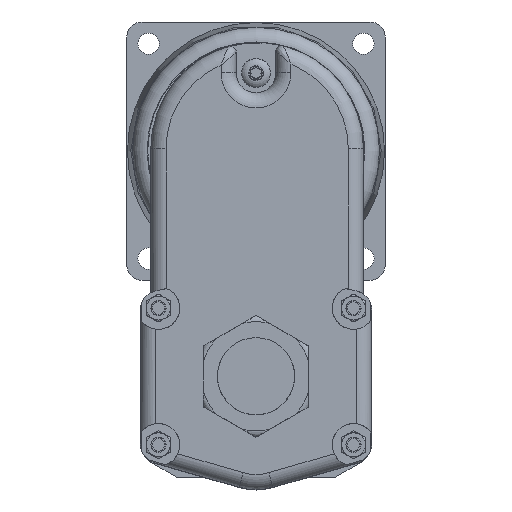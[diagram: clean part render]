
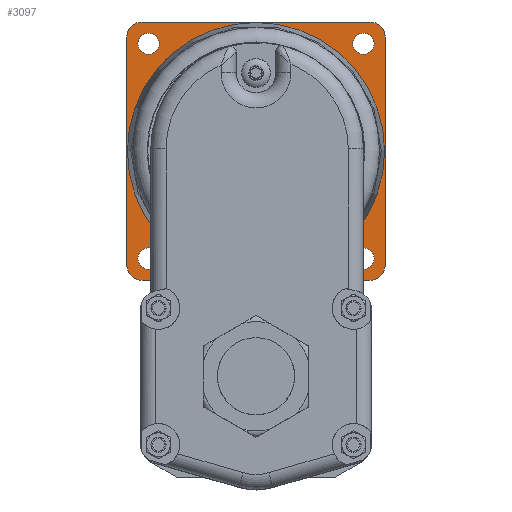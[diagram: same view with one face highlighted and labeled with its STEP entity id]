
A CAD part, top view. The second image highlights one B-rep face of the part: STEP entity #3097.
In plain terms, the highlighted planar face has unit normal (0, 0, 1).
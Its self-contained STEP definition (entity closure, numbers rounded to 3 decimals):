
#189 = VERTEX_POINT ( 'NONE', #4096 ) ;
#191 = VERTEX_POINT ( 'NONE', #4098 ) ;
#193 = VERTEX_POINT ( 'NONE', #4100 ) ;
#196 = VERTEX_POINT ( 'NONE', #4103 ) ;
#200 = VERTEX_POINT ( 'NONE', #4107 ) ;
#202 = VERTEX_POINT ( 'NONE', #4109 ) ;
#205 = VERTEX_POINT ( 'NONE', #4112 ) ;
#206 = VERTEX_POINT ( 'NONE', #4113 ) ;
#1895 = EDGE_CURVE ( 'NONE', #11479, #11479, #8239, .T. ) ;
#1946 = EDGE_CURVE ( 'NONE', #206, #205, #8324, .T. ) ;
#1950 = EDGE_CURVE ( 'NONE', #11491, #11491, #8332, .T. ) ;
#1952 = EDGE_CURVE ( 'NONE', #202, #200, #8326, .T. ) ;
#1955 = EDGE_CURVE ( 'NONE', #11499, #11499, #8338, .T. ) ;
#1956 = EDGE_CURVE ( 'NONE', #205, #202, #8340, .T. ) ;
#1957 = EDGE_CURVE ( 'NONE', #200, #196, #8342, .T. ) ;
#1958 = EDGE_CURVE ( 'NONE', #196, #193, #8331, .T. ) ;
#1959 = EDGE_CURVE ( 'NONE', #193, #191, #8344, .T. ) ;
#1960 = EDGE_CURVE ( 'NONE', #191, #189, #8330, .T. ) ;
#1961 = EDGE_CURVE ( 'NONE', #189, #206, #8347, .T. ) ;
#1963 = EDGE_CURVE ( 'NONE', #11501, #11501, #8349, .T. ) ;
#1965 = EDGE_CURVE ( 'NONE', #11503, #11503, #8352, .T. ) ;
#2681 = ORIENTED_EDGE ( 'NONE', *, *, #1950, .F. ) ;
#2682 = ORIENTED_EDGE ( 'NONE', *, *, #1955, .F. ) ;
#2683 = ORIENTED_EDGE ( 'NONE', *, *, #1946, .T. ) ;
#2684 = ORIENTED_EDGE ( 'NONE', *, *, #1956, .T. ) ;
#2685 = ORIENTED_EDGE ( 'NONE', *, *, #1952, .T. ) ;
#2686 = ORIENTED_EDGE ( 'NONE', *, *, #1957, .T. ) ;
#2687 = ORIENTED_EDGE ( 'NONE', *, *, #1958, .T. ) ;
#2688 = ORIENTED_EDGE ( 'NONE', *, *, #1959, .T. ) ;
#2689 = ORIENTED_EDGE ( 'NONE', *, *, #1960, .T. ) ;
#2690 = ORIENTED_EDGE ( 'NONE', *, *, #1961, .T. ) ;
#2691 = ORIENTED_EDGE ( 'NONE', *, *, #1963, .F. ) ;
#2692 = ORIENTED_EDGE ( 'NONE', *, *, #1965, .F. ) ;
#2693 = ORIENTED_EDGE ( 'NONE', *, *, #1895, .T. ) ;
#3097 = ADVANCED_FACE ( 'NONE', ( #8735, #8738, #8742, #8744, #8739, #8737 ), #11002, .F. ) ;
#4096 = CARTESIAN_POINT ( 'NONE',  ( -37.5, 116.9, -11.3 ) ) ;
#4098 = CARTESIAN_POINT ( 'NONE',  ( 37.5, 116.9, -11.3 ) ) ;
#4100 = CARTESIAN_POINT ( 'NONE',  ( 42.5, 111.9, -11.3 ) ) ;
#4103 = CARTESIAN_POINT ( 'NONE',  ( 42.5, 36.9, -11.3 ) ) ;
#4107 = CARTESIAN_POINT ( 'NONE',  ( 37.5, 31.9, -11.3 ) ) ;
#4109 = CARTESIAN_POINT ( 'NONE',  ( -37.5, 31.9, -11.3 ) ) ;
#4112 = CARTESIAN_POINT ( 'NONE',  ( -42.5, 36.9, -11.3 ) ) ;
#4113 = CARTESIAN_POINT ( 'NONE',  ( -42.5, 111.9, -11.3 ) ) ;
#7739 = AXIS2_PLACEMENT_3D ( 'NONE', #9929, #9937, #9938 ) ;
#7760 = AXIS2_PLACEMENT_3D ( 'NONE', #10107, #10108, #10109 ) ;
#7763 = AXIS2_PLACEMENT_3D ( 'NONE', #10068, #10069, #10070 ) ;
#7767 = AXIS2_PLACEMENT_3D ( 'NONE', #10082, #10089, #10090 ) ;
#7769 = AXIS2_PLACEMENT_3D ( 'NONE', #10060, #10083, #10084 ) ;
#7770 = AXIS2_PLACEMENT_3D ( 'NONE', #10079, #10086, #10087 ) ;
#7771 = AXIS2_PLACEMENT_3D ( 'NONE', #10085, #10094, #10095 ) ;
#7772 = AXIS2_PLACEMENT_3D ( 'NONE', #10088, #10099, #10100 ) ;
#7773 = AXIS2_PLACEMENT_3D ( 'NONE', #10093, #10103, #10104 ) ;
#7911 = AXIS2_PLACEMENT_3D ( 'NONE', #11001, #11004, #11005 ) ;
#8239 = CIRCLE ( 'NONE', #7739, 42.331 ) ;
#8324 = LINE ( 'NONE', #10057, #8325 ) ;
#8325 = VECTOR ( 'NONE', #10058, 1000. ) ;
#8326 = LINE ( 'NONE', #10074, #8333 ) ;
#8330 = LINE ( 'NONE', #10096, #8341 ) ;
#8331 = LINE ( 'NONE', #10091, #8339 ) ;
#8332 = CIRCLE ( 'NONE', #7763, 3.5 ) ;
#8333 = VECTOR ( 'NONE', #10075, 1000. ) ;
#8338 = CIRCLE ( 'NONE', #7769, 3.5 ) ;
#8339 = VECTOR ( 'NONE', #10092, 1000. ) ;
#8340 = CIRCLE ( 'NONE', #7770, 5. ) ;
#8341 = VECTOR ( 'NONE', #10097, 1000. ) ;
#8342 = CIRCLE ( 'NONE', #7767, 5. ) ;
#8344 = CIRCLE ( 'NONE', #7771, 5. ) ;
#8347 = CIRCLE ( 'NONE', #7772, 5. ) ;
#8349 = CIRCLE ( 'NONE', #7773, 3.5 ) ;
#8352 = CIRCLE ( 'NONE', #7760, 3.5 ) ;
#8735 = FACE_BOUND ( 'NONE', #9213, .T. ) ;
#8737 = FACE_BOUND ( 'NONE', #9192, .T. ) ;
#8738 = FACE_BOUND ( 'NONE', #9201, .T. ) ;
#8739 = FACE_BOUND ( 'NONE', #9193, .T. ) ;
#8742 = FACE_OUTER_BOUND ( 'NONE', #9195, .T. ) ;
#8744 = FACE_BOUND ( 'NONE', #9194, .T. ) ;
#9192 = EDGE_LOOP ( 'NONE', ( #2693 ) ) ;
#9193 = EDGE_LOOP ( 'NONE', ( #2692 ) ) ;
#9194 = EDGE_LOOP ( 'NONE', ( #2691 ) ) ;
#9195 = EDGE_LOOP ( 'NONE', ( #2683, #2684, #2685, #2686, #2687, #2688, #2689, #2690 ) ) ;
#9201 = EDGE_LOOP ( 'NONE', ( #2682 ) ) ;
#9213 = EDGE_LOOP ( 'NONE', ( #2681 ) ) ;
#9929 = CARTESIAN_POINT ( 'NONE',  ( 0., 74.4, -11.3 ) ) ;
#9937 = DIRECTION ( 'NONE',  ( 0., 0., -1. ) ) ;
#9938 = DIRECTION ( 'NONE',  ( -1., 0., 0. ) ) ;
#10057 = CARTESIAN_POINT ( 'NONE',  ( -42.5, 116.9, -11.3 ) ) ;
#10058 = DIRECTION ( 'NONE',  ( 0., -1., 0. ) ) ;
#10060 = CARTESIAN_POINT ( 'NONE',  ( -35.355, 39.045, -11.3 ) ) ;
#10068 = CARTESIAN_POINT ( 'NONE',  ( 35.355, 109.755, -11.3 ) ) ;
#10069 = DIRECTION ( 'NONE',  ( 0., 0., 1. ) ) ;
#10070 = DIRECTION ( 'NONE',  ( 1., 0., 0. ) ) ;
#10074 = CARTESIAN_POINT ( 'NONE',  ( -42.5, 31.9, -11.3 ) ) ;
#10075 = DIRECTION ( 'NONE',  ( 1., 0., 0. ) ) ;
#10079 = CARTESIAN_POINT ( 'NONE',  ( -37.5, 36.9, -11.3 ) ) ;
#10082 = CARTESIAN_POINT ( 'NONE',  ( 37.5, 36.9, -11.3 ) ) ;
#10083 = DIRECTION ( 'NONE',  ( 0., 0., 1. ) ) ;
#10084 = DIRECTION ( 'NONE',  ( 1., 0., 0. ) ) ;
#10085 = CARTESIAN_POINT ( 'NONE',  ( 37.5, 111.9, -11.3 ) ) ;
#10086 = DIRECTION ( 'NONE',  ( 0., 0., 1. ) ) ;
#10087 = DIRECTION ( 'NONE',  ( -1., 0., 0. ) ) ;
#10088 = CARTESIAN_POINT ( 'NONE',  ( -37.5, 111.9, -11.3 ) ) ;
#10089 = DIRECTION ( 'NONE',  ( 0., 0., 1. ) ) ;
#10090 = DIRECTION ( 'NONE',  ( -1., 0., 0. ) ) ;
#10091 = CARTESIAN_POINT ( 'NONE',  ( 42.5, 116.9, -11.3 ) ) ;
#10092 = DIRECTION ( 'NONE',  ( 0., 1., 0. ) ) ;
#10093 = CARTESIAN_POINT ( 'NONE',  ( 35.355, 39.045, -11.3 ) ) ;
#10094 = DIRECTION ( 'NONE',  ( 0., 0., 1. ) ) ;
#10095 = DIRECTION ( 'NONE',  ( -1., 0., 0. ) ) ;
#10096 = CARTESIAN_POINT ( 'NONE',  ( -42.5, 116.9, -11.3 ) ) ;
#10097 = DIRECTION ( 'NONE',  ( -1., 0., 0. ) ) ;
#10099 = DIRECTION ( 'NONE',  ( 0., 0., 1. ) ) ;
#10100 = DIRECTION ( 'NONE',  ( -1., 0., 0. ) ) ;
#10103 = DIRECTION ( 'NONE',  ( 0., 0., 1. ) ) ;
#10104 = DIRECTION ( 'NONE',  ( 1., 0., 0. ) ) ;
#10107 = CARTESIAN_POINT ( 'NONE',  ( -35.355, 109.755, -11.3 ) ) ;
#10108 = DIRECTION ( 'NONE',  ( 0., 0., 1. ) ) ;
#10109 = DIRECTION ( 'NONE',  ( 1., 0., 0. ) ) ;
#11001 = CARTESIAN_POINT ( 'NONE',  ( 42.5, 116.9, -11.3 ) ) ;
#11002 = PLANE ( 'NONE',  #7911 ) ;
#11004 = DIRECTION ( 'NONE',  ( 0., 0., -1. ) ) ;
#11005 = DIRECTION ( 'NONE',  ( -1., 0., 0. ) ) ;
#11479 = VERTEX_POINT ( 'NONE', #11480 ) ;
#11480 = CARTESIAN_POINT ( 'NONE',  ( -42.331, 74.4, -11.3 ) ) ;
#11491 = VERTEX_POINT ( 'NONE', #11492 ) ;
#11492 = CARTESIAN_POINT ( 'NONE',  ( 38.855, 109.755, -11.3 ) ) ;
#11499 = VERTEX_POINT ( 'NONE', #11500 ) ;
#11500 = CARTESIAN_POINT ( 'NONE',  ( -31.855, 39.045, -11.3 ) ) ;
#11501 = VERTEX_POINT ( 'NONE', #11502 ) ;
#11502 = CARTESIAN_POINT ( 'NONE',  ( 38.855, 39.045, -11.3 ) ) ;
#11503 = VERTEX_POINT ( 'NONE', #11504 ) ;
#11504 = CARTESIAN_POINT ( 'NONE',  ( -31.855, 109.755, -11.3 ) ) ;
